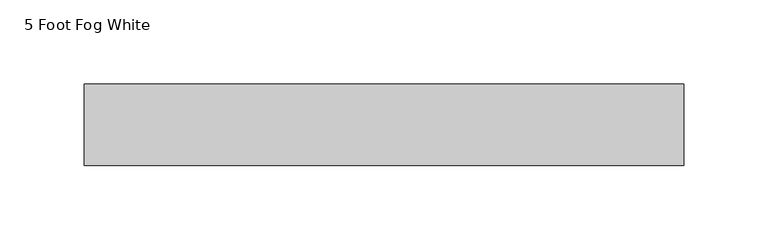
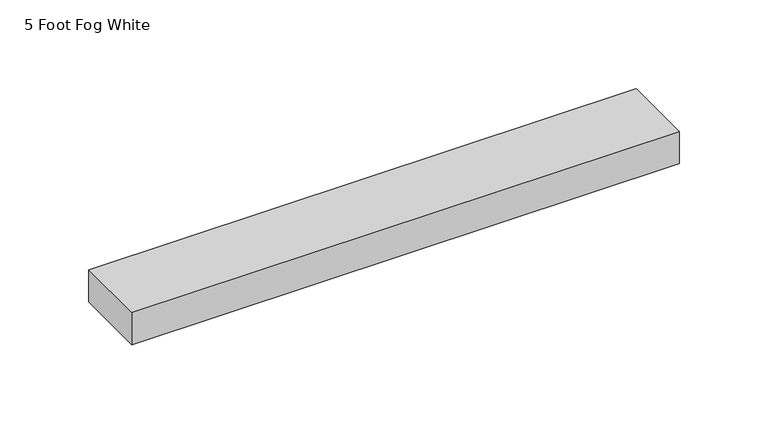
"""IFC4 building model written with IfcOpenShell, lengths in millimetres: proxy geometry, Raceway-2400_Series-Wiremold-Steel : 5 Foot Fog White."""

from ifc_helpers import new_model, si_unit, origin, origin_with_axes, place, context, project, spatial, polyline, outline, extrude, source, transform, mapped, element, save


def proxy_5_foot_fog_white_8e3de450(model_context):
    return source(origin(), model_context, "Body", "SweptSolid", [
        extrude(outline(polyline([(355.6, 24.2062), (355.6, -24.2062), (0.0, -24.2062), (0.0, 24.2062), (355.6, 24.2062)])), origin_with_axes(), (0.0, 0.0, 1.0), 22.225),
    ])


if __name__ == "__main__":
    model = new_model("IFC4")
    model_context = context("Model", 3, world=origin())
    ifc_project = project(units=[si_unit("LENGTHUNIT", "METRE", prefix="MILLI")], contexts=[model_context])
    site = spatial("IfcSite", under=ifc_project)
    building = spatial("IfcBuilding", under=site)
    placement = place(None, origin())
    proxy_5_foot_fog_white_shape = proxy_5_foot_fog_white_8e3de450(model_context)
    element("IfcBuildingElementProxy", 1, Name="Raceway-2400_Series-Wiremold-Steel : 5 Foot Fog White", ObjectType="Raceway-2400_Series-Wiremold-Steel : 5 Foot Fog White", at=placement, inside=building, context=model_context, shape_type="MappedRepresentation", body=[
        mapped(proxy_5_foot_fog_white_shape, transform((0.0, 0.0, 0.0), x_axis=(1.0, 0.0, 0.0), y_axis=(0.0, 1.0, 0.0), z_axis=(0.0, 0.0, 1.0))),
    ])
    save(model, "model.ifc")
